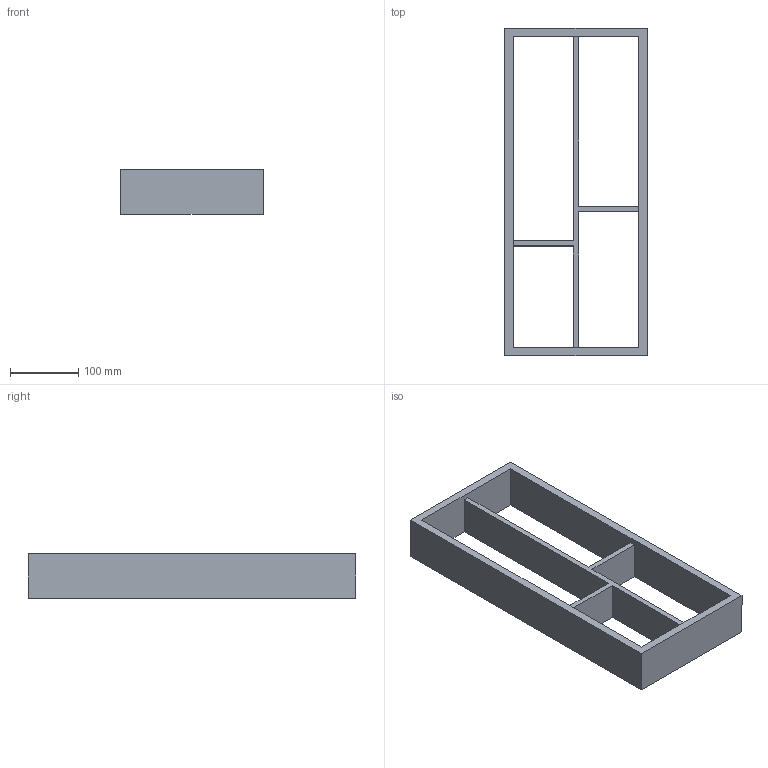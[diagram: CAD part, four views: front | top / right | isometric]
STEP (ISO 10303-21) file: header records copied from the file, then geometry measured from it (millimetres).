
FILE_DESCRIPTION (( 'STEP AP214' ), '1' );
FILE_NAME ('Vario Multi NL500_B300_16 mm_Alu.step', '2010-10-07T06:24:26', ( 'grass' ), ( '' ), 'SwSTEP 2.0', 'SolidWorks 2010', '' );
FILE_SCHEMA (( 'AUTOMOTIVE_DESIGN' ));
Length unit declared in the file: millimetre
Products named in the file (1): Vario Multi NL500_B300_16 mm_Alu
Bounding box: 208 x 479 x 65 mm (x, y, z)
Volume: 1322016 mm3; surface area: 283498 mm2
Topology: 1 solids, 1 shells, 19 faces, 60 edges, 40 vertices
Faces by surface type: plane 19
Entity records: 704 total; most frequent: ORIENTED_EDGE 120, CARTESIAN_POINT 120, DIRECTION 100, EDGE_CURVE 60, LINE 60, VECTOR 60, VERTEX_POINT 40, EDGE_LOOP 24
